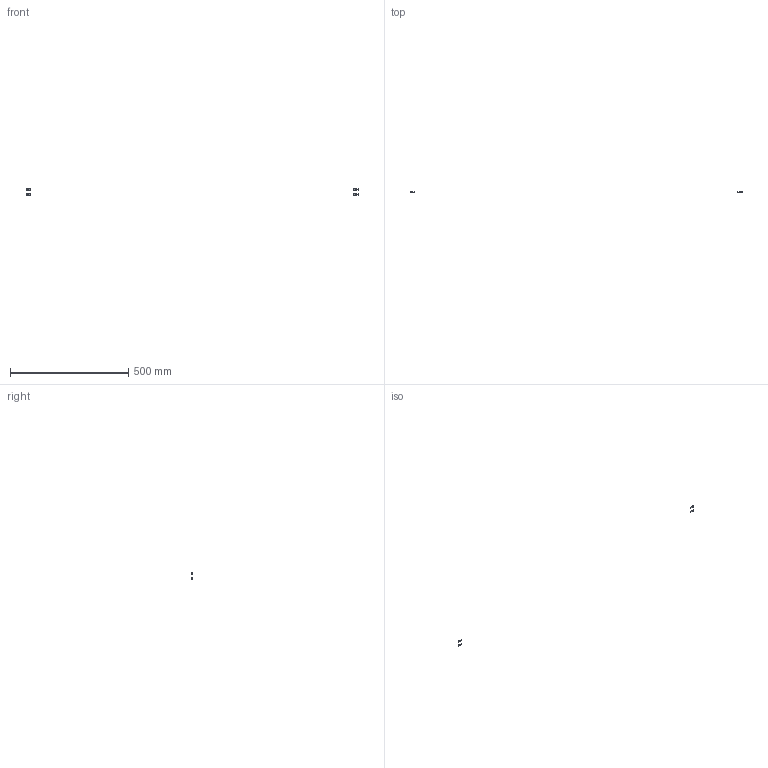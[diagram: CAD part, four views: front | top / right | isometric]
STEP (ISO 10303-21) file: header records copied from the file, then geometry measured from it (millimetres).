
FILE_DESCRIPTION(/* description */ (''),/* implementation_level */ '2;1');
FILE_NAME(/* name */ '8.x-drive#8.9#HNTPZ5-5',/* time_stamp */ '2014-12-01T20:18:40+01:00',/* author */ (''),/* organization */ (''),/* preprocessor_version */ 'ST-DEVELOPER v14',/* originating_system */ '',/* authorisation */ '');
FILE_SCHEMA (('AUTOMOTIVE_DESIGN'));
Length unit declared in the file: millimetre
Products named in the file (2): Document; nut tslot, post, M5
Assembly tree (2 placements, depth 2):
  Document
    nut tslot, post, M5  x2
Bounding box: 1402 x 3.8 x 29.3 mm (x, y, z)
Volume: 1260 mm3; surface area: 1678 mm2
Topology: 4 solids, 4 shells, 52 faces, 144 edges, 96 vertices
Faces by surface type: plane 44, bspline 8
Entity records: 2913 total; most frequent: CARTESIAN_POINT 1373, B_SPLINE_CURVE_WITH_KNOTS 300, ORIENTED_EDGE 216, PCURVE 216, DEFINITIONAL_REPRESENTATION 216, SURFACE_CURVE 108, EDGE_CURVE 108, VERTEX_POINT 72
